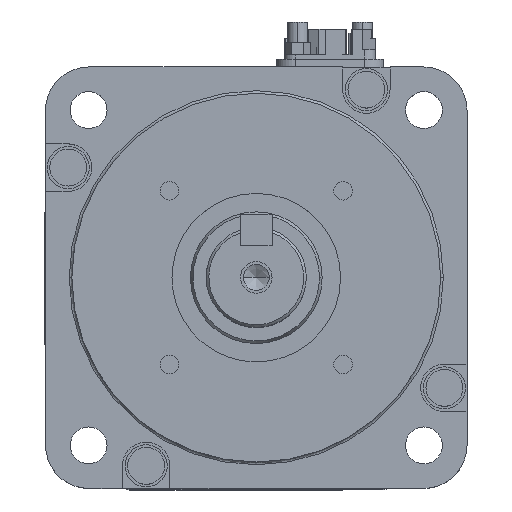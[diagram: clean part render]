
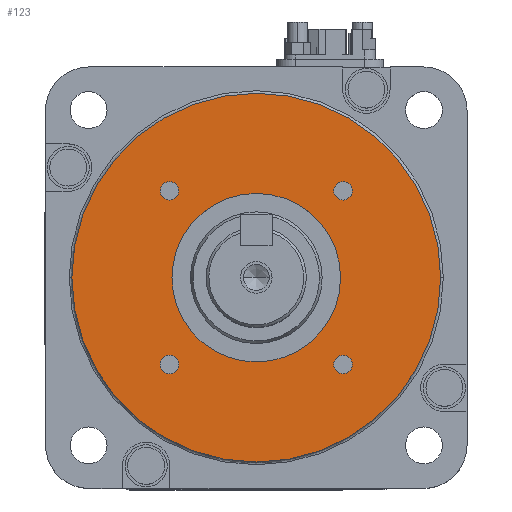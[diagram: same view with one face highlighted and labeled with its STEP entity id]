
A CAD part, top view. The second image highlights one B-rep face of the part: STEP entity #123.
In plain terms, the highlighted planar face has unit normal (0, 0, 1).
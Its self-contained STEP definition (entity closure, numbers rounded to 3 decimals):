
#123=ADVANCED_FACE('',(#767,#768,#769,#770,#771,#772),#766,.T.);
#766=PLANE('',#6218);
#767=FACE_OUTER_BOUND('',#6219,.T.);
#768=FACE_BOUND('',#6220,.T.);
#769=FACE_BOUND('',#6221,.T.);
#770=FACE_BOUND('',#6222,.T.);
#771=FACE_BOUND('',#6223,.T.);
#772=FACE_BOUND('',#6224,.T.);
#6215=CARTESIAN_POINT('',(-80.,-70.622,3.));
#6216=DIRECTION('',(0.,0.,1.));
#6217=DIRECTION('',(1.,0.,0.));
#6218=AXIS2_PLACEMENT_3D('',#6215,#6216,#6217);
#6219=EDGE_LOOP('',(#9054,#9055));
#6220=EDGE_LOOP('',(#9056,#9057));
#6221=EDGE_LOOP('',(#9058,#9059));
#6222=EDGE_LOOP('',(#9060,#9061));
#6223=EDGE_LOOP('',(#9062,#9063));
#6224=EDGE_LOOP('',(#9064,#9065));
#9054=ORIENTED_EDGE('',*,*,#11909,.T.);
#9055=ORIENTED_EDGE('',*,*,#11910,.T.);
#9056=ORIENTED_EDGE('',*,*,#11911,.F.);
#9057=ORIENTED_EDGE('',*,*,#11912,.F.);
#9058=ORIENTED_EDGE('',*,*,#11913,.F.);
#9059=ORIENTED_EDGE('',*,*,#11914,.F.);
#9060=ORIENTED_EDGE('',*,*,#11915,.F.);
#9061=ORIENTED_EDGE('',*,*,#11916,.F.);
#9062=ORIENTED_EDGE('',*,*,#11917,.F.);
#9063=ORIENTED_EDGE('',*,*,#11918,.F.);
#9064=ORIENTED_EDGE('',*,*,#11919,.F.);
#9065=ORIENTED_EDGE('',*,*,#11920,.F.);
#11909=EDGE_CURVE('',#13536,#13537,#13538,.T.);
#11910=EDGE_CURVE('',#13537,#13536,#13544,.T.);
#11911=EDGE_CURVE('',#13550,#13551,#13552,.T.);
#11912=EDGE_CURVE('',#13551,#13550,#13558,.T.);
#11913=EDGE_CURVE('',#13564,#13565,#13566,.T.);
#11914=EDGE_CURVE('',#13565,#13564,#13572,.T.);
#11915=EDGE_CURVE('',#13578,#13579,#13580,.T.);
#11916=EDGE_CURVE('',#13579,#13578,#13586,.T.);
#11917=EDGE_CURVE('',#13592,#13593,#13594,.T.);
#11918=EDGE_CURVE('',#13593,#13592,#13600,.T.);
#11919=EDGE_CURVE('',#13606,#13607,#13608,.T.);
#11920=EDGE_CURVE('',#13607,#13606,#13614,.T.);
#13536=VERTEX_POINT('',#23016);
#13537=VERTEX_POINT('',#23017);
#13538=CIRCLE('',#23021,35.);
#13544=CIRCLE('',#23025,35.);
#13550=VERTEX_POINT('',#23026);
#13551=VERTEX_POINT('',#23027);
#13552=CIRCLE('',#23031,1.75);
#13558=CIRCLE('',#23035,1.75);
#13564=VERTEX_POINT('',#23036);
#13565=VERTEX_POINT('',#23037);
#13566=CIRCLE('',#23041,1.75);
#13572=CIRCLE('',#23045,1.75);
#13578=VERTEX_POINT('',#23046);
#13579=VERTEX_POINT('',#23047);
#13580=CIRCLE('',#23051,1.75);
#13586=CIRCLE('',#23055,1.75);
#13592=VERTEX_POINT('',#23056);
#13593=VERTEX_POINT('',#23057);
#13594=CIRCLE('',#23061,1.75);
#13600=CIRCLE('',#23065,1.75);
#13606=VERTEX_POINT('',#23066);
#13607=VERTEX_POINT('',#23067);
#13608=CIRCLE('',#23071,16.);
#13614=CIRCLE('',#23075,16.);
#23016=CARTESIAN_POINT('',(35.,0.,3.));
#23017=CARTESIAN_POINT('',(-35.,0.,3.));
#23018=CARTESIAN_POINT('',(0.,0.,3.));
#23019=DIRECTION('',(0.,0.,1.));
#23020=DIRECTION('',(1.,0.,0.));
#23021=AXIS2_PLACEMENT_3D('',#23018,#23019,#23020);
#23022=CARTESIAN_POINT('',(0.,0.,3.));
#23023=DIRECTION('',(0.,0.,1.));
#23024=DIRECTION('',(1.,0.,0.));
#23025=AXIS2_PLACEMENT_3D('',#23022,#23023,#23024);
#23026=CARTESIAN_POINT('',(18.226,-16.476,3.));
#23027=CARTESIAN_POINT('',(14.726,-16.476,3.));
#23028=CARTESIAN_POINT('',(16.476,-16.476,3.));
#23029=DIRECTION('',(0.,0.,1.));
#23030=DIRECTION('',(-1.,0.,0.));
#23031=AXIS2_PLACEMENT_3D('',#23028,#23029,#23030);
#23032=CARTESIAN_POINT('',(16.476,-16.476,3.));
#23033=DIRECTION('',(0.,0.,1.));
#23034=DIRECTION('',(-1.,0.,0.));
#23035=AXIS2_PLACEMENT_3D('',#23032,#23033,#23034);
#23036=CARTESIAN_POINT('',(-14.726,-16.476,3.));
#23037=CARTESIAN_POINT('',(-18.226,-16.476,3.));
#23038=CARTESIAN_POINT('',(-16.476,-16.476,3.));
#23039=DIRECTION('',(0.,0.,1.));
#23040=DIRECTION('',(-1.,0.,0.));
#23041=AXIS2_PLACEMENT_3D('',#23038,#23039,#23040);
#23042=CARTESIAN_POINT('',(-16.476,-16.476,3.));
#23043=DIRECTION('',(0.,0.,1.));
#23044=DIRECTION('',(-1.,0.,0.));
#23045=AXIS2_PLACEMENT_3D('',#23042,#23043,#23044);
#23046=CARTESIAN_POINT('',(-14.726,16.476,3.));
#23047=CARTESIAN_POINT('',(-18.226,16.476,3.));
#23048=CARTESIAN_POINT('',(-16.476,16.476,3.));
#23049=DIRECTION('',(0.,0.,1.));
#23050=DIRECTION('',(-1.,0.,0.));
#23051=AXIS2_PLACEMENT_3D('',#23048,#23049,#23050);
#23052=CARTESIAN_POINT('',(-16.476,16.476,3.));
#23053=DIRECTION('',(0.,0.,1.));
#23054=DIRECTION('',(-1.,0.,0.));
#23055=AXIS2_PLACEMENT_3D('',#23052,#23053,#23054);
#23056=CARTESIAN_POINT('',(18.226,16.476,3.));
#23057=CARTESIAN_POINT('',(14.726,16.476,3.));
#23058=CARTESIAN_POINT('',(16.476,16.476,3.));
#23059=DIRECTION('',(0.,0.,1.));
#23060=DIRECTION('',(-1.,0.,0.));
#23061=AXIS2_PLACEMENT_3D('',#23058,#23059,#23060);
#23062=CARTESIAN_POINT('',(16.476,16.476,3.));
#23063=DIRECTION('',(0.,0.,1.));
#23064=DIRECTION('',(-1.,0.,0.));
#23065=AXIS2_PLACEMENT_3D('',#23062,#23063,#23064);
#23066=CARTESIAN_POINT('',(16.,0.,3.));
#23067=CARTESIAN_POINT('',(-16.,0.,3.));
#23068=CARTESIAN_POINT('',(0.,0.,3.));
#23069=DIRECTION('',(0.,0.,1.));
#23070=DIRECTION('',(-1.,0.,0.));
#23071=AXIS2_PLACEMENT_3D('',#23068,#23069,#23070);
#23072=CARTESIAN_POINT('',(0.,0.,3.));
#23073=DIRECTION('',(0.,0.,1.));
#23074=DIRECTION('',(-1.,0.,0.));
#23075=AXIS2_PLACEMENT_3D('',#23072,#23073,#23074);
